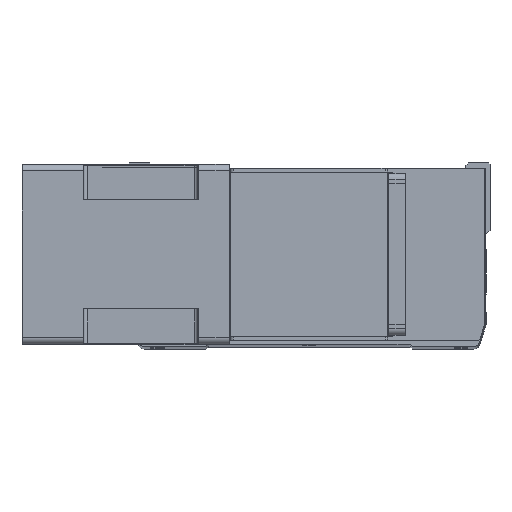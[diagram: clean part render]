
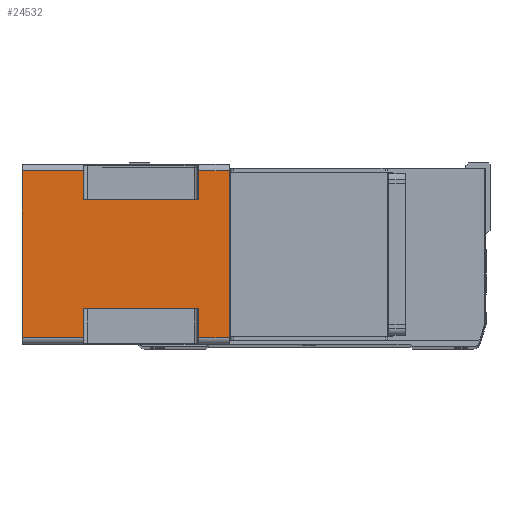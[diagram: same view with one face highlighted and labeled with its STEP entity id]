
A CAD part, top view. The second image highlights one B-rep face of the part: STEP entity #24532.
In plain terms, the highlighted planar face has unit normal (0, 0, 1) as drawn and (-1, 0, 0) by its records, which use the part's own axes.
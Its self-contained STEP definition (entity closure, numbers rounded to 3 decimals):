
#483 = ORIENTED_EDGE ( 'NONE', *, *, #21726, .T. ) ;
#528 = DIRECTION ( 'NONE',  ( 0., -1., 0. ) ) ;
#3293 = VERTEX_POINT ( 'NONE', #40462 ) ;
#3801 = VECTOR ( 'NONE', #25238, 1000. ) ;
#4294 = CARTESIAN_POINT ( 'NONE',  ( -71., -66., -115.5 ) ) ;
#4698 = EDGE_CURVE ( 'NONE', #14191, #43398, #34953, .T. ) ;
#4749 = DIRECTION ( 'NONE',  ( 0., -1., 0. ) ) ;
#5138 = VERTEX_POINT ( 'NONE', #26877 ) ;
#5585 = VERTEX_POINT ( 'NONE', #41370 ) ;
#5669 = CARTESIAN_POINT ( 'NONE',  ( -71., -43., -24.5 ) ) ;
#6132 = DIRECTION ( 'NONE',  ( 0., 0., 1. ) ) ;
#6929 = CARTESIAN_POINT ( 'NONE',  ( -71., -66., -115.5 ) ) ;
#6987 = CARTESIAN_POINT ( 'NONE',  ( -71., 66., -164. ) ) ;
#7041 = PLANE ( 'NONE',  #17939 ) ;
#7577 = VECTOR ( 'NONE', #30769, 1000. ) ;
#8254 = ORIENTED_EDGE ( 'NONE', *, *, #19095, .F. ) ;
#8326 = VERTEX_POINT ( 'NONE', #39050 ) ;
#9675 = LINE ( 'NONE', #6987, #7577 ) ;
#10793 = EDGE_LOOP ( 'NONE', ( #22781, #483, #43125, #41373, #11676, #20479, #20859, #38984, #8254, #19789, #37184, #37253 ) ) ;
#11676 = ORIENTED_EDGE ( 'NONE', *, *, #4698, .T. ) ;
#11895 = VERTEX_POINT ( 'NONE', #5669 ) ;
#11989 = LINE ( 'NONE', #4294, #40103 ) ;
#12277 = LINE ( 'NONE', #40407, #27862 ) ;
#13414 = LINE ( 'NONE', #32683, #32001 ) ;
#13920 = VECTOR ( 'NONE', #4749, 1000. ) ;
#13938 = CARTESIAN_POINT ( 'NONE',  ( -71., 66., -164. ) ) ;
#14191 = VERTEX_POINT ( 'NONE', #38556 ) ;
#14645 = DIRECTION ( 'NONE',  ( 0., -1., 0. ) ) ;
#14939 = EDGE_CURVE ( 'NONE', #8326, #5585, #11989, .T. ) ;
#15058 = CARTESIAN_POINT ( 'NONE',  ( -71., 66., -24.5 ) ) ;
#17047 = DIRECTION ( 'NONE',  ( 0., 0., 1. ) ) ;
#17322 = CARTESIAN_POINT ( 'NONE',  ( -71., -66., -164. ) ) ;
#17939 = AXIS2_PLACEMENT_3D ( 'NONE', #17322, #24105, #528 ) ;
#18172 = DIRECTION ( 'NONE',  ( 0., 0., 1. ) ) ;
#19095 = EDGE_CURVE ( 'NONE', #8326, #25302, #20705, .T. ) ;
#19394 = DIRECTION ( 'NONE',  ( 0., 0., 1. ) ) ;
#19717 = LINE ( 'NONE', #32356, #25001 ) ;
#19789 = ORIENTED_EDGE ( 'NONE', *, *, #14939, .T. ) ;
#19866 = FACE_OUTER_BOUND ( 'NONE', #10793, .T. ) ;
#20479 = ORIENTED_EDGE ( 'NONE', *, *, #25100, .F. ) ;
#20705 = LINE ( 'NONE', #40119, #34498 ) ;
#20859 = ORIENTED_EDGE ( 'NONE', *, *, #21292, .F. ) ;
#21292 = EDGE_CURVE ( 'NONE', #43742, #3293, #36799, .T. ) ;
#21429 = CARTESIAN_POINT ( 'NONE',  ( -71., 66., -164. ) ) ;
#21533 = EDGE_CURVE ( 'NONE', #11895, #14191, #13414, .T. ) ;
#21726 = EDGE_CURVE ( 'NONE', #30770, #5138, #34096, .T. ) ;
#22781 = ORIENTED_EDGE ( 'NONE', *, *, #31254, .T. ) ;
#22863 = DIRECTION ( 'NONE',  ( 0., -1., 0. ) ) ;
#23066 = CARTESIAN_POINT ( 'NONE',  ( -71., -43., -164. ) ) ;
#24105 = DIRECTION ( 'NONE',  ( -1., 0., 0. ) ) ;
#24532 = ADVANCED_FACE ( 'NONE', ( #19866 ), #7041, .T. ) ;
#24840 = VECTOR ( 'NONE', #26327, 1000. ) ;
#24888 = EDGE_CURVE ( 'NONE', #28290, #5585, #9675, .T. ) ;
#24947 = CARTESIAN_POINT ( 'NONE',  ( -71., -43., -115.5 ) ) ;
#25001 = VECTOR ( 'NONE', #39157, 1000. ) ;
#25062 = CARTESIAN_POINT ( 'NONE',  ( -71., -66., 0. ) ) ;
#25100 = EDGE_CURVE ( 'NONE', #3293, #43398, #34097, .T. ) ;
#25238 = DIRECTION ( 'NONE',  ( 0., 1., 0. ) ) ;
#25302 = VERTEX_POINT ( 'NONE', #26685 ) ;
#26327 = DIRECTION ( 'NONE',  ( 0., 0., -1. ) ) ;
#26685 = CARTESIAN_POINT ( 'NONE',  ( -71., 43., -24.5 ) ) ;
#26704 = VECTOR ( 'NONE', #18172, 1000. ) ;
#26822 = CARTESIAN_POINT ( 'NONE',  ( -71., -66., -164. ) ) ;
#26877 = CARTESIAN_POINT ( 'NONE',  ( -71., -43., -115.5 ) ) ;
#26986 = VECTOR ( 'NONE', #17047, 1000. ) ;
#27862 = VECTOR ( 'NONE', #6132, 1000. ) ;
#27945 = EDGE_CURVE ( 'NONE', #28290, #35356, #19717, .T. ) ;
#28290 = VERTEX_POINT ( 'NONE', #13938 ) ;
#29510 = EDGE_CURVE ( 'NONE', #11895, #5138, #34419, .T. ) ;
#30769 = DIRECTION ( 'NONE',  ( 0., 0., 1. ) ) ;
#30770 = VERTEX_POINT ( 'NONE', #6929 ) ;
#31254 = EDGE_CURVE ( 'NONE', #35356, #30770, #12277, .T. ) ;
#31352 = LINE ( 'NONE', #35073, #39817 ) ;
#32001 = VECTOR ( 'NONE', #22863, 1000. ) ;
#32356 = CARTESIAN_POINT ( 'NONE',  ( -71., -66., -164. ) ) ;
#32683 = CARTESIAN_POINT ( 'NONE',  ( -71., -66., -24.5 ) ) ;
#34096 = LINE ( 'NONE', #24947, #3801 ) ;
#34097 = LINE ( 'NONE', #25062, #13920 ) ;
#34419 = LINE ( 'NONE', #23066, #24840 ) ;
#34424 = DIRECTION ( 'NONE',  ( 0., 1., 0. ) ) ;
#34498 = VECTOR ( 'NONE', #19394, 1000. ) ;
#34953 = LINE ( 'NONE', #26822, #26986 ) ;
#35073 = CARTESIAN_POINT ( 'NONE',  ( -71., 43., -24.5 ) ) ;
#35356 = VERTEX_POINT ( 'NONE', #42684 ) ;
#36433 = CARTESIAN_POINT ( 'NONE',  ( -71., -66., 0. ) ) ;
#36799 = LINE ( 'NONE', #21429, #26704 ) ;
#37184 = ORIENTED_EDGE ( 'NONE', *, *, #24888, .F. ) ;
#37253 = ORIENTED_EDGE ( 'NONE', *, *, #27945, .T. ) ;
#37551 = EDGE_CURVE ( 'NONE', #43742, #25302, #31352, .T. ) ;
#38556 = CARTESIAN_POINT ( 'NONE',  ( -71., -66., -24.5 ) ) ;
#38984 = ORIENTED_EDGE ( 'NONE', *, *, #37551, .T. ) ;
#39050 = CARTESIAN_POINT ( 'NONE',  ( -71., 43., -115.5 ) ) ;
#39157 = DIRECTION ( 'NONE',  ( 0., -1., 0. ) ) ;
#39817 = VECTOR ( 'NONE', #14645, 1000. ) ;
#40103 = VECTOR ( 'NONE', #34424, 1000. ) ;
#40119 = CARTESIAN_POINT ( 'NONE',  ( -71., 43., -164. ) ) ;
#40407 = CARTESIAN_POINT ( 'NONE',  ( -71., -66., -164. ) ) ;
#40462 = CARTESIAN_POINT ( 'NONE',  ( -71., 66., 0. ) ) ;
#41370 = CARTESIAN_POINT ( 'NONE',  ( -71., 66., -115.5 ) ) ;
#41373 = ORIENTED_EDGE ( 'NONE', *, *, #21533, .T. ) ;
#42684 = CARTESIAN_POINT ( 'NONE',  ( -71., -66., -164. ) ) ;
#43125 = ORIENTED_EDGE ( 'NONE', *, *, #29510, .F. ) ;
#43398 = VERTEX_POINT ( 'NONE', #36433 ) ;
#43742 = VERTEX_POINT ( 'NONE', #15058 ) ;
